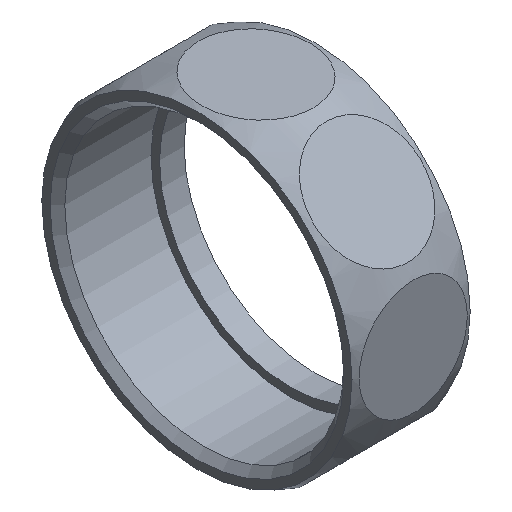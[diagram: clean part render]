
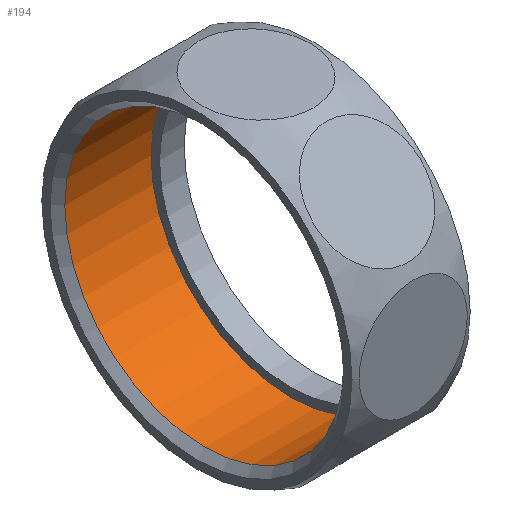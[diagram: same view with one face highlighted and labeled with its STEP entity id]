
A CAD part, isometric view. The second image highlights one B-rep face of the part: STEP entity #194.
In plain terms, the highlighted cylindrical face has radius 28.33 mm (diameter 56.66 mm), a full revolution.
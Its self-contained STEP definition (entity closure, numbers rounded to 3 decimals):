
#18=CYLINDRICAL_SURFACE('',#215,28.33);
#22=FACE_BOUND('',#71,.T.);
#33=CIRCLE('',#210,28.33);
#37=CIRCLE('',#216,28.33);
#53=FACE_OUTER_BOUND('',#70,.T.);
#70=EDGE_LOOP('',(#147));
#71=EDGE_LOOP('',(#148));
#104=VERTEX_POINT('',#885);
#108=VERTEX_POINT('',#895);
#122=EDGE_CURVE('',#104,#104,#33,.T.);
#126=EDGE_CURVE('',#108,#108,#37,.T.);
#147=ORIENTED_EDGE('',*,*,#126,.T.);
#148=ORIENTED_EDGE('',*,*,#122,.F.);
#194=ADVANCED_FACE('',(#53,#22),#18,.F.);
#210=AXIS2_PLACEMENT_3D('',#886,#244,#245);
#215=AXIS2_PLACEMENT_3D('',#894,#254,#255);
#216=AXIS2_PLACEMENT_3D('',#896,#256,#257);
#244=DIRECTION('center_axis',(1.,0.,0.));
#245=DIRECTION('ref_axis',(0.,-1.,0.));
#254=DIRECTION('center_axis',(1.,0.,0.));
#255=DIRECTION('ref_axis',(0.,1.,0.));
#256=DIRECTION('center_axis',(1.,0.,0.));
#257=DIRECTION('ref_axis',(0.,1.,0.));
#885=CARTESIAN_POINT('',(1.5,28.33,0.));
#886=CARTESIAN_POINT('Origin',(1.5,0.,0.));
#894=CARTESIAN_POINT('Origin',(9.5,0.,0.));
#895=CARTESIAN_POINT('',(19.,28.33,0.));
#896=CARTESIAN_POINT('Origin',(19.,0.,0.));
